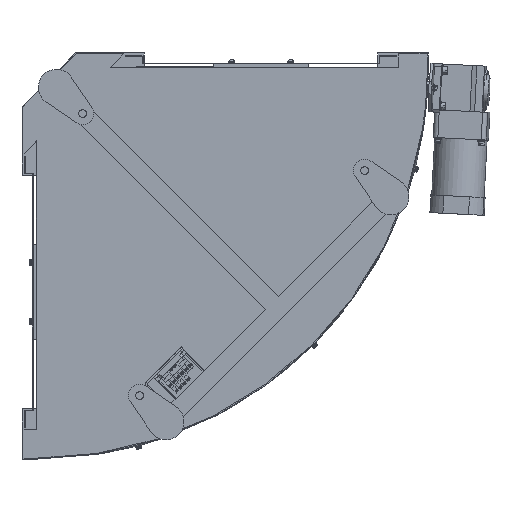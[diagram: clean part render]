
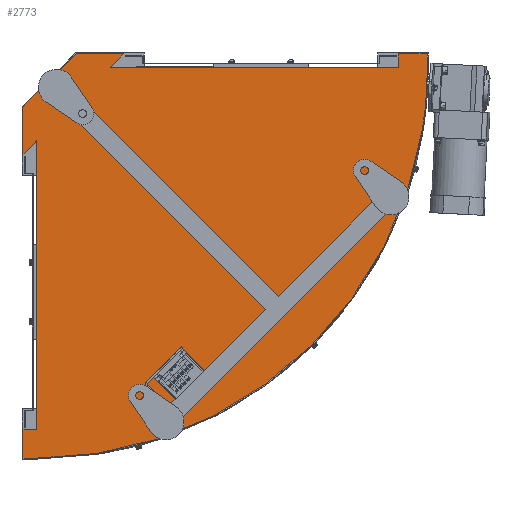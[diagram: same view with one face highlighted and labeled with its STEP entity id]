
A CAD part, front view. The second image highlights one B-rep face of the part: STEP entity #2773.
In plain terms, the highlighted planar face has unit normal (0, -1, 0).
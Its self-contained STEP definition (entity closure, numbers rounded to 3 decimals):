
#2773=ADVANCED_FACE('',(#17662),#17661,.F.);
#17661=PLANE('',#28456);
#17662=FACE_OUTER_BOUND('',#28457,.T.);
#28453=CARTESIAN_POINT('',(-33.4,-145.7,-671.5));
#28454=DIRECTION('',(0.,1.,0.));
#28455=DIRECTION('',(0.,0.,1.));
#28456=AXIS2_PLACEMENT_3D('',#28453,#28454,#28455);
#28457=EDGE_LOOP('',(#37720,#37721,#37722,#37723,#37724,#37725,#37726,#37727,#37728,#37729,#37730,#37731,#37732,#37733,#37734,#37735));
#37720=ORIENTED_EDGE('',*,*,#42021,.T.);
#37721=ORIENTED_EDGE('',*,*,#42040,.T.);
#37722=ORIENTED_EDGE('',*,*,#42137,.T.);
#37723=ORIENTED_EDGE('',*,*,#42133,.T.);
#37724=ORIENTED_EDGE('',*,*,#42161,.T.);
#37725=ORIENTED_EDGE('',*,*,#42189,.F.);
#37726=ORIENTED_EDGE('',*,*,#42190,.T.);
#37727=ORIENTED_EDGE('',*,*,#42129,.T.);
#37728=ORIENTED_EDGE('',*,*,#42126,.T.);
#37729=ORIENTED_EDGE('',*,*,#42132,.T.);
#37730=ORIENTED_EDGE('',*,*,#42191,.T.);
#37731=ORIENTED_EDGE('',*,*,#42192,.F.);
#37732=ORIENTED_EDGE('',*,*,#42152,.T.);
#37733=ORIENTED_EDGE('',*,*,#42147,.T.);
#37734=ORIENTED_EDGE('',*,*,#42144,.T.);
#37735=ORIENTED_EDGE('',*,*,#42140,.T.);
#42021=EDGE_CURVE('',#65815,#65808,#65816,.T.);
#42040=EDGE_CURVE('',#65808,#65912,#65945,.T.);
#42126=EDGE_CURVE('',#66521,#66536,#66543,.T.);
#42129=EDGE_CURVE('',#66550,#66521,#66563,.T.);
#42132=EDGE_CURVE('',#66536,#66576,#66583,.T.);
#42133=EDGE_CURVE('',#66589,#66590,#66591,.T.);
#42137=EDGE_CURVE('',#65912,#66589,#66617,.T.);
#42140=EDGE_CURVE('',#66636,#65815,#66637,.T.);
#42144=EDGE_CURVE('',#66649,#66636,#66663,.T.);
#42147=EDGE_CURVE('',#66669,#66649,#66683,.T.);
#42152=EDGE_CURVE('',#66716,#66669,#66717,.T.);
#42161=EDGE_CURVE('',#66590,#66770,#66777,.T.);
#42189=EDGE_CURVE('',#66961,#66770,#66962,.T.);
#42190=EDGE_CURVE('',#66961,#66550,#66968,.T.);
#42191=EDGE_CURVE('',#66576,#66974,#66975,.T.);
#42192=EDGE_CURVE('',#66716,#66974,#66981,.T.);
#65808=VERTEX_POINT('',#83460);
#65815=VERTEX_POINT('',#83464);
#65816=CIRCLE('',#83468,661.5);
#65912=VERTEX_POINT('',#83585);
#65945=LINE('',#83603,#83604);
#66521=VERTEX_POINT('',#84006);
#66536=VERTEX_POINT('',#84015);
#66543=LINE('',#84019,#84020);
#66550=VERTEX_POINT('',#84023);
#66563=LINE('',#84030,#84031);
#66576=VERTEX_POINT('',#84037);
#66583=LINE('',#84041,#84042);
#66589=VERTEX_POINT('',#84044);
#66590=VERTEX_POINT('',#84045);
#66591=LINE('',#84046,#84047);
#66617=LINE('',#84060,#84061);
#66636=VERTEX_POINT('',#84071);
#66637=CIRCLE('',#84075,661.5);
#66649=VERTEX_POINT('',#84079);
#66663=LINE('',#84087,#84088);
#66669=VERTEX_POINT('',#84090);
#66683=LINE('',#84098,#84099);
#66716=VERTEX_POINT('',#84117);
#66717=LINE('',#84118,#84119);
#66770=VERTEX_POINT('',#84149);
#66777=LINE('',#84153,#84154);
#66961=VERTEX_POINT('',#84256);
#66962=LINE('',#84257,#84258);
#66968=LINE('',#84260,#84261);
#66974=VERTEX_POINT('',#84263);
#66975=LINE('',#84264,#84265);
#66981=LINE('',#84267,#84268);
#83460=CARTESIAN_POINT('',(661.5,-145.7,0.));
#83464=CARTESIAN_POINT('',(652.907,-145.7,-106.279));
#83465=CARTESIAN_POINT('',(0.,-145.7,0.));
#83466=DIRECTION('',(0.,-1.,0.));
#83467=DIRECTION('',(0.,0.,-1.));
#83468=AXIS2_PLACEMENT_3D('',#83465,#83466,#83467);
#83585=CARTESIAN_POINT('',(661.5,-145.7,7.));
#83603=CARTESIAN_POINT('',(661.5,-145.7,0.));
#83604=VECTOR('',#83605,7.);
#83605=DIRECTION('',(0.,0.,1.));
#84006=CARTESIAN_POINT('',(66.663,-145.7,23.4));
#84015=CARTESIAN_POINT('',(-23.4,-145.7,-66.663));
#84019=CARTESIAN_POINT('',(66.663,-145.7,23.4));
#84020=VECTOR('',#84021,127.368);
#84021=DIRECTION('',(-0.707,0.,-0.707));
#84023=CARTESIAN_POINT('',(147.5,-145.7,23.4));
#84030=CARTESIAN_POINT('',(147.5,-145.7,23.4));
#84031=VECTOR('',#84032,80.837);
#84032=DIRECTION('',(-1.,0.,0.));
#84037=CARTESIAN_POINT('',(-23.4,-145.7,-147.5));
#84041=CARTESIAN_POINT('',(-23.4,-145.7,-66.663));
#84042=VECTOR('',#84043,80.837);
#84043=DIRECTION('',(0.,0.,-1.));
#84044=CARTESIAN_POINT('',(661.5,-145.7,23.4));
#84045=CARTESIAN_POINT('',(612.5,-145.7,23.4));
#84046=CARTESIAN_POINT('',(661.5,-145.7,23.4));
#84047=VECTOR('',#84048,49.);
#84048=DIRECTION('',(-1.,0.,0.));
#84060=CARTESIAN_POINT('',(661.5,-145.7,7.));
#84061=VECTOR('',#84062,16.4);
#84062=DIRECTION('',(0.,0.,1.));
#84071=CARTESIAN_POINT('',(0.,-145.7,-661.5));
#84072=CARTESIAN_POINT('',(0.,-145.7,0.));
#84073=DIRECTION('',(0.,-1.,0.));
#84074=DIRECTION('',(0.,0.,-1.));
#84075=AXIS2_PLACEMENT_3D('',#84072,#84073,#84074);
#84079=CARTESIAN_POINT('',(-23.4,-145.7,-661.5));
#84087=CARTESIAN_POINT('',(-23.4,-145.7,-661.5));
#84088=VECTOR('',#84089,23.4);
#84089=DIRECTION('',(1.,0.,0.));
#84090=CARTESIAN_POINT('',(-23.4,-145.7,-612.5));
#84098=CARTESIAN_POINT('',(-23.4,-145.7,-612.5));
#84099=VECTOR('',#84100,49.);
#84100=DIRECTION('',(0.,0.,-1.));
#84117=CARTESIAN_POINT('',(0.,-145.7,-612.5));
#84118=CARTESIAN_POINT('',(0.,-145.7,-612.5));
#84119=VECTOR('',#84120,23.4);
#84120=DIRECTION('',(-1.,0.,0.));
#84149=CARTESIAN_POINT('',(612.5,-145.7,0.));
#84153=CARTESIAN_POINT('',(612.5,-145.7,23.4));
#84154=VECTOR('',#84155,23.4);
#84155=DIRECTION('',(0.,0.,-1.));
#84256=CARTESIAN_POINT('',(124.1,-145.7,0.));
#84257=CARTESIAN_POINT('',(124.1,-145.7,0.));
#84258=VECTOR('',#84259,488.4);
#84259=DIRECTION('',(1.,0.,0.));
#84260=CARTESIAN_POINT('',(124.1,-145.7,0.));
#84261=VECTOR('',#84262,33.093);
#84262=DIRECTION('',(0.707,0.,0.707));
#84263=CARTESIAN_POINT('',(0.,-145.7,-124.1));
#84264=CARTESIAN_POINT('',(-23.4,-145.7,-147.5));
#84265=VECTOR('',#84266,33.093);
#84266=DIRECTION('',(0.707,0.,0.707));
#84267=CARTESIAN_POINT('',(0.,-145.7,-612.5));
#84268=VECTOR('',#84269,488.4);
#84269=DIRECTION('',(0.,0.,1.));
